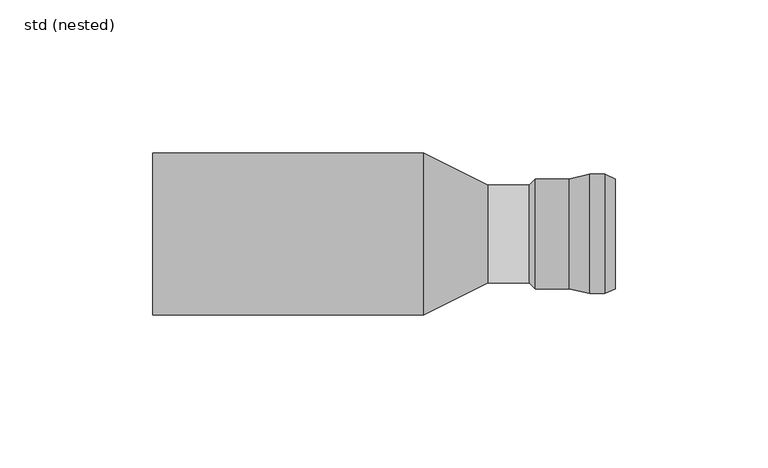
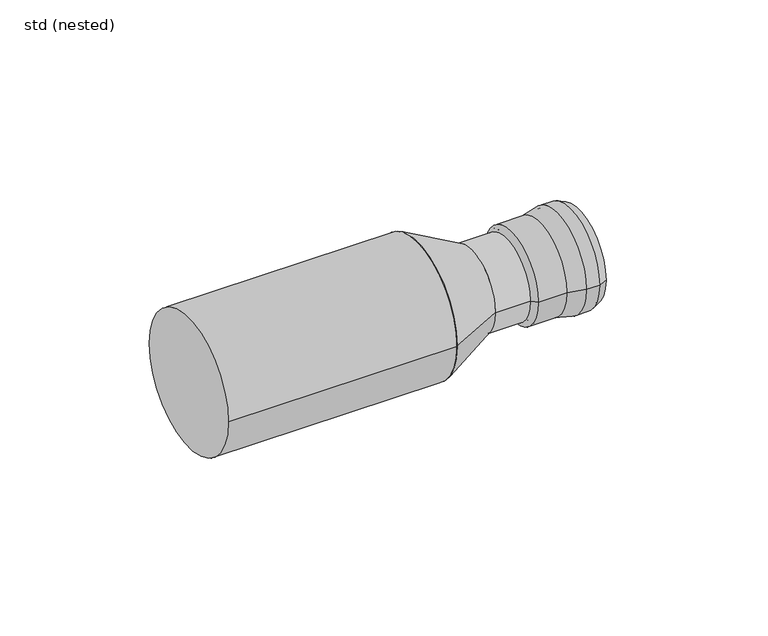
"""IFC4 building model written with IfcOpenShell, lengths in millimetres: pipe fitting geometry, ZZZ_do not use_PIF_ST_UN_GM-X transition element_ACO : std (nested)."""

from ifc_helpers import new_model, si_unit, point, frame, origin, origin_2d, place, context, project, spatial, polyline, circle_curve, trimmed, segment, composite_curve, outline, extrude, source, transform, mapped, element, save
from ifc_brep_helpers import plane_surface, cylinder_surface, revolved_surface, advanced_brep


def std_nested_3508894c(model_context):
    return source(origin(), model_context, "Body", "SolidModel", [
        advanced_brep(
        [(80.2, -19.5, 0.0), (80.2, 19.5, 0.0), (85.1, 19.5, 0.0), (85.1, -19.5, 0.0), (73.5, -18.0, 0.0), (73.5, 18.0, 0.0), (88.5, 18.0, 0.0), (88.5, -18.0, 0.0), (62.5, -18.0, 0.0), (62.5, 18.0, 0.0), (60.5, -16.0, 0.0), (60.5, 16.0, 0.0), (62.5, -16.0, 0.0), (62.5, 16.0, 0.0), (73.6105717, -17.0, 0.0), (73.6105717, 17.0, 0.0), (62.5, 17.0, 0.0), (62.5, -17.0, 0.0), (80.3105717, -18.5, 0.0), (80.3105717, 18.5, 0.0), (84.8892128, -18.5, 0.0), (84.8892128, 18.5, 0.0), (88.0963598, -17.0850822, 0.0), (88.0963598, 17.0850822, 0.0)],
        [
            (0, 1, circle_curve(frame((80.2, 0.0, 0.0), z_axis=(1.0, 0.0, 0.0), x_axis=(0.0, 1.0, 0.0)), 19.5)),
            (1, 2),
            (2, 3, circle_curve(frame((85.1, 0.0, 0.0), z_axis=(-1.0, 0.0, 0.0), x_axis=(0.0, 1.0, 0.0)), 19.5)),
            (3, 0),
            (1, 0, circle_curve(frame((80.2, 0.0, 0.0), z_axis=(1.0, 0.0, 0.0), x_axis=(0.0, 1.0, 0.0)), 19.5)),
            (3, 2, circle_curve(frame((85.1, 0.0, 0.0), z_axis=(-1.0, 0.0, 0.0), x_axis=(0.0, 1.0, 0.0)), 19.5)),
            (4, 5, circle_curve(frame((73.5, 0.0, 0.0), z_axis=(1.0, 0.0, 0.0), x_axis=(0.0, 1.0, 0.0)), 18.0)),
            (5, 1),
            (0, 4),
            (5, 4, circle_curve(frame((73.5, 0.0, 0.0), z_axis=(1.0, 0.0, 0.0), x_axis=(0.0, 1.0, 0.0)), 18.0)),
            (2, 6),
            (6, 7, circle_curve(frame((88.5, 0.0, 0.0), z_axis=(-1.0, 0.0, 0.0), x_axis=(0.0, 1.0, 0.0)), 18.0)),
            (7, 3),
            (7, 6, circle_curve(frame((88.5, 0.0, 0.0), z_axis=(-1.0, 0.0, 0.0), x_axis=(0.0, 1.0, 0.0)), 18.0)),
            (8, 9, circle_curve(frame((62.5, 0.0, 0.0), z_axis=(1.0, 0.0, 0.0), x_axis=(0.0, 1.0, 0.0)), 18.0)),
            (9, 5),
            (4, 8),
            (9, 8, circle_curve(frame((62.5, 0.0, 0.0), z_axis=(1.0, 0.0, 0.0), x_axis=(0.0, 1.0, 0.0)), 18.0)),
            (10, 11, circle_curve(frame((60.5, 0.0, 0.0), z_axis=(1.0, 0.0, 0.0), x_axis=(0.0, 1.0, 0.0)), 16.0)),
            (11, 9),
            (8, 10),
            (11, 10, circle_curve(frame((60.5, 0.0, 0.0), z_axis=(1.0, 0.0, 0.0), x_axis=(0.0, 1.0, 0.0)), 16.0)),
            (12, 13, circle_curve(frame((62.5, 0.0, 0.0), z_axis=(1.0, 0.0, 0.0), x_axis=(0.0, 1.0, 0.0)), 16.0)),
            (13, 11),
            (10, 12),
            (13, 12, circle_curve(frame((62.5, 0.0, 0.0), z_axis=(1.0, 0.0, 0.0), x_axis=(0.0, 1.0, 0.0)), 16.0)),
            (14, 15, circle_curve(frame((73.6105717, 0.0, 0.0), z_axis=(1.0, 0.0, 0.0), x_axis=(0.0, 1.0, 0.0)), 17.0)),
            (15, 16),
            (16, 17, circle_curve(frame((62.5, 0.0, 0.0), z_axis=(-1.0, 0.0, 0.0), x_axis=(0.0, 1.0, 0.0)), 17.0)),
            (17, 14),
            (15, 14, circle_curve(frame((73.6105717, 0.0, 0.0), z_axis=(1.0, 0.0, 0.0), x_axis=(0.0, 1.0, 0.0)), 17.0)),
            (17, 16, circle_curve(frame((62.5, 0.0, 0.0), z_axis=(-1.0, 0.0, 0.0), x_axis=(0.0, 1.0, 0.0)), 17.0)),
            (18, 19, circle_curve(frame((80.3105717, 0.0, 0.0), z_axis=(1.0, 0.0, 0.0), x_axis=(0.0, 1.0, 0.0)), 18.5)),
            (19, 15),
            (14, 18),
            (19, 18, circle_curve(frame((80.3105717, 0.0, 0.0), z_axis=(1.0, 0.0, 0.0), x_axis=(0.0, 1.0, 0.0)), 18.5)),
            (20, 21, circle_curve(frame((84.8892128, 0.0, 0.0), z_axis=(1.0, 0.0, 0.0), x_axis=(0.0, 1.0, 0.0)), 18.5)),
            (21, 19),
            (18, 20),
            (21, 20, circle_curve(frame((84.8892128, 0.0, 0.0), z_axis=(1.0, 0.0, 0.0), x_axis=(0.0, 1.0, 0.0)), 18.5)),
            (22, 23, circle_curve(frame((88.0963598, 0.0, 0.0), z_axis=(1.0, 0.0, 0.0), x_axis=(0.0, 1.0, 0.0)), 17.0850822)),
            (23, 21),
            (20, 22),
            (23, 22, circle_curve(frame((88.0963598, 0.0, 0.0), z_axis=(1.0, 0.0, 0.0), x_axis=(0.0, 1.0, 0.0)), 17.0850822)),
            (6, 23),
            (22, 7),
            (16, 13),
            (12, 17),
        ],
        [
            cylinder_surface(frame((85.1444117, 0.0, 0.0), z_axis=(-1.0, 0.0, 0.0), x_axis=(0.0, 1.0, 0.0)), 19.5),
            revolved_surface(polyline([(80.2, 19.5, 0.0), (73.5, 18.0, 0.0)]), (85.1444117, 0.0, 0.0), (-1.0, 0.0, 0.0)),
            revolved_surface(polyline([(88.5, 18.0, 0.0), (85.1, 19.5, 0.0)]), (85.1444117, 0.0, 0.0), (-1.0, 0.0, 0.0)),
            cylinder_surface(frame((85.1444117, 0.0, 0.0), z_axis=(-1.0, 0.0, 0.0), x_axis=(0.0, 1.0, 0.0)), 18.0),
            revolved_surface(polyline([(62.5, 18.0, 0.0), (60.5, 16.0, 0.0)]), (85.1444117, 0.0, 0.0), (-1.0, 0.0, 0.0)),
            revolved_surface(polyline([(60.5, 16.0, 0.0), (62.5, 16.0, 0.0)]), (85.1444117, 0.0, 0.0), (-1.0, 0.0, 0.0)),
            revolved_surface(polyline([(62.5, 17.0, 0.0), (73.6105717, 17.0, 0.0)]), (85.1444117, 0.0, 0.0), (-1.0, 0.0, 0.0)),
            revolved_surface(polyline([(73.6105717, 17.0, 0.0), (80.3105717, 18.5, 0.0)]), (85.1444117, 0.0, 0.0), (-1.0, 0.0, 0.0)),
            revolved_surface(polyline([(80.3105717, 18.5, 0.0), (84.8892128, 18.5, 0.0)]), (85.1444117, 0.0, 0.0), (-1.0, 0.0, 0.0)),
            revolved_surface(polyline([(84.8892128, 18.5, 0.0), (88.0963598, 17.0850822, 0.0)]), (85.1444117, 0.0, 0.0), (-1.0, 0.0, 0.0)),
            revolved_surface(polyline([(88.0963598, 17.0850822, 0.0), (88.5, 18.0, 0.0)]), (85.1444117, 0.0, 0.0), (-1.0, 0.0, 0.0)),
            plane_surface(frame((62.5, 0.0, 0.0), z_axis=(1.0, 0.0, 0.0), x_axis=(0.0, 1.0, 0.0))),
        ],
        [
            (0, [[1, 2, 3, 4]]),
            (0, [[5, -4, 6, -2]]),
            (1, [[7, 8, -1, 9]]),
            (1, [[10, -9, -5, -8]]),
            (2, [[-3, 11, 12, 13]]),
            (2, [[-6, -13, 14, -11]]),
            (3, [[15, 16, -7, 17]]),
            (3, [[18, -17, -10, -16]]),
            (4, [[19, 20, -15, 21]]),
            (4, [[22, -21, -18, -20]]),
            (5, [[23, 24, -19, 25]]),
            (5, [[26, -25, -22, -24]]),
            (6, [[27, 28, 29, 30]]),
            (6, [[31, -30, 32, -28]]),
            (7, [[33, 34, -27, 35]]),
            (7, [[36, -35, -31, -34]]),
            (8, [[37, 38, -33, 39]]),
            (8, [[40, -39, -36, -38]]),
            (9, [[41, 42, -37, 43]]),
            (9, [[44, -43, -40, -42]]),
            (10, [[-12, 45, -41, 46]]),
            (10, [[-14, -46, -44, -45]]),
            (11, [[-29, 47, -23, 48]]),
            (11, [[-32, -48, -26, -47]]),
        ],
    ),
        advanced_brep(
        [(46.875, -16.0, 0.0), (46.875, 16.0, 0.0), (26.0416667, -26.5, 0.0), (26.0416667, 26.5, 0.0)],
        [
            (0, 1, circle_curve(frame((46.875, 0.0, 0.0), z_axis=(1.0, 0.0, -1.371315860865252e-12), x_axis=(0.0, -1.0, 0.0)), 16.0)),
            (1, 0, circle_curve(frame((46.875, 0.0, 0.0), z_axis=(1.0, 0.0, -1.371315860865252e-12), x_axis=(0.0, 1.0, 0.0)), 16.0)),
            (2, 3, circle_curve(frame((26.0416667, 0.0, 0.0), z_axis=(-1.0, 0.0, 1.371315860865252e-12), x_axis=(0.0, 1.0, 0.0)), 26.5)),
            (3, 2, circle_curve(frame((26.0416667, 0.0, 0.0), z_axis=(-1.0, 0.0, 1.371315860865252e-12), x_axis=(0.0, -1.0, 0.0)), 26.5)),
            (3, 1),
            (0, 2),
        ],
        [
            plane_surface(frame((46.875, 0.0, 0.0), z_axis=(1.0, 0.0, 0.0), x_axis=(0.0, 0.0, -1.0))),
            plane_surface(frame((26.0416667, 0.0, 0.0), z_axis=(-1.0, 0.0, 0.0), x_axis=(0.0, 0.0, -1.0))),
            revolved_surface(polyline([(46.875, -16.000000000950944, 0.0), (26.0416667, -26.5, 0.0)]), (78.6210317, 0.0, 0.0), (-1.0, 0.0, 1.371315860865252e-12)),
            revolved_surface(polyline([(46.875, 16.000000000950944, 0.0), (26.0416667, 26.5, 0.0)]), (78.6210317, 0.0, 0.0), (-1.0, 0.0, 1.371315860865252e-12)),
        ],
        [
            (0, [[1, 2]]),
            (1, [[3, 4]]),
            (2, [[-4, 5, -1, 6]]),
            (3, [[-3, -6, -2, -5]]),
        ],
    ),
        extrude(outline(composite_curve([segment(trimmed(circle_curve(origin_2d(), 16.0), [point((16.0, 0.0))], [point((-16.0, 0.0))], False, "CARTESIAN"), True, "CONTINUOUS"), segment(trimmed(circle_curve(origin_2d(), 16.0), [point((-16.0, 0.0))], [point((16.0, 0.0))], False, "CARTESIAN"), True, "CONTINUOUS")], self_intersect=False)), frame((46.875, 0.0, 0.0), z_axis=(1.0, 0.0, 0.0), x_axis=(0.0, 1.0, 0.0)), (0.0, 0.0, 1.0), 15.625),
        extrude(outline(composite_curve([segment(trimmed(circle_curve(origin_2d(), 26.5), [point((-26.5, 0.0))], [point((26.5, 0.0))], False, "CARTESIAN"), True, "CONTINUOUS"), segment(trimmed(circle_curve(origin_2d(), 26.5), [point((26.5, 0.0))], [point((-26.5, 0.0))], False, "CARTESIAN"), True, "CONTINUOUS")], self_intersect=False)), frame((-62.5, 0.0, 0.0), z_axis=(1.0, 0.0, 0.0), x_axis=(0.0, 1.0, 0.0)), (0.0, 0.0, 1.0), 88.5416667),
    ])


if __name__ == "__main__":
    model = new_model("IFC4")
    model_context = context("Model", 3, world=origin())
    ifc_project = project(units=[si_unit("LENGTHUNIT", "METRE", prefix="MILLI")], contexts=[model_context])
    site = spatial("IfcSite", under=ifc_project)
    building = spatial("IfcBuilding", under=site)
    placement = place(None, origin())
    std_nested_shape = std_nested_3508894c(model_context)
    element("IfcPipeFitting", 1, ObjectType="ZZZ_do not use_PIF_ST_UN_GM-X transition element_ACO : std (nested)", at=placement, inside=building, context=model_context, shape_type="MappedRepresentation", body=[
        mapped(std_nested_shape, transform((0.0, 0.0, 0.0), x_axis=(1.0, 0.0, 0.0), y_axis=(0.0, 1.0, 0.0), z_axis=(0.0, 0.0, 1.0))),
    ])
    save(model, "model.ifc")
